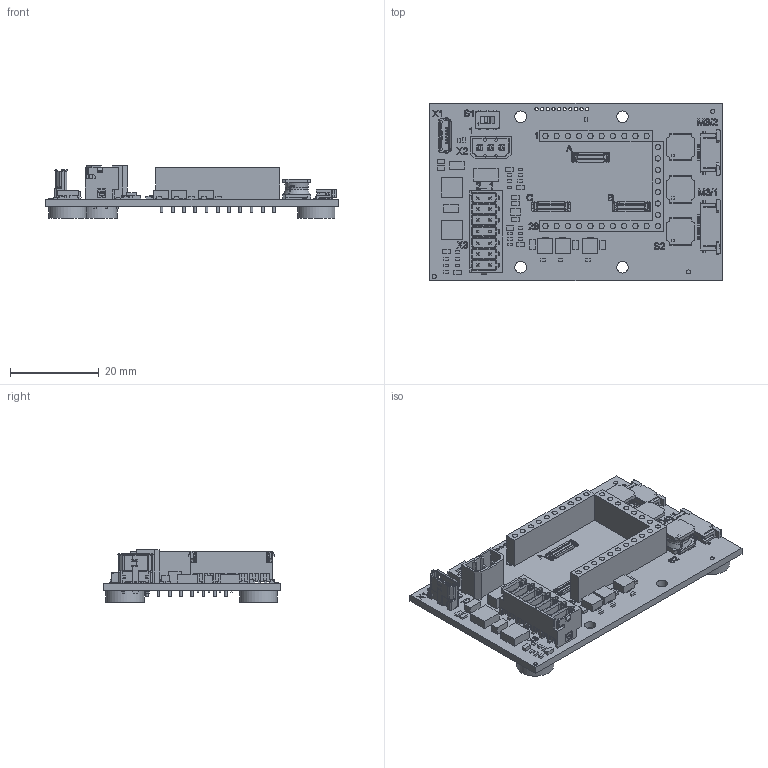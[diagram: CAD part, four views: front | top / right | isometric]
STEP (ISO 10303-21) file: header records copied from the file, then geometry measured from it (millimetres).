
FILE_DESCRIPTION(/* description */ (''),/* implementation_level */ '2;1');
FILE_NAME(/* name */ 'MC3001_BL_AESM_IEM3.stp',/* time_stamp */ '2021-01-13T14:37:00+01:00',/* author */ ('DR. FRITZ FAULHABER GmbH & Co. KG'),/* organization */ ('DR. FRITZ FAULHABER GmbH & Co. KG'),/* preprocessor_version */ 'ST-DEVELOPER v16.7',/* originating_system */ 'SIEMENS PLM Software NX 1919',/* authorisation */ '');
FILE_SCHEMA (('AUTOMOTIVE_DESIGN { 1 0 10303 214 3 1 1 1 }'));
Products named in the file (1): 012016_B_1-TP-00208
Bounding box: 66 x 40 x 11.92 mm (x, y, z)
Volume: 7917.9 mm3; surface area: 11165.2 mm2
Topology: 1 solids, 1 shells, 6376 faces, 17514 edges, 11501 vertices
Faces by surface type: plane 5009, cylinder 1064, bspline 167, extrusion 93, cone 30, torus 11, sphere 2
Full cylindrical faces by diameter (mm): 0.6 x28, 0.75 x10, 0.8 x28, 0.9 x3, 1.1 x3, 1.2 x45, 2.6 x4, 8.45 x4
Entity records: 211275 total; most frequent: CARTESIAN_POINT 49487, ORIENTED_EDGE 34570, DIRECTION 30943, EDGE_CURVE 17285, VECTOR 14377, LINE 14284, VERTEX_POINT 11437, AXIS2_PLACEMENT_3D 8283
